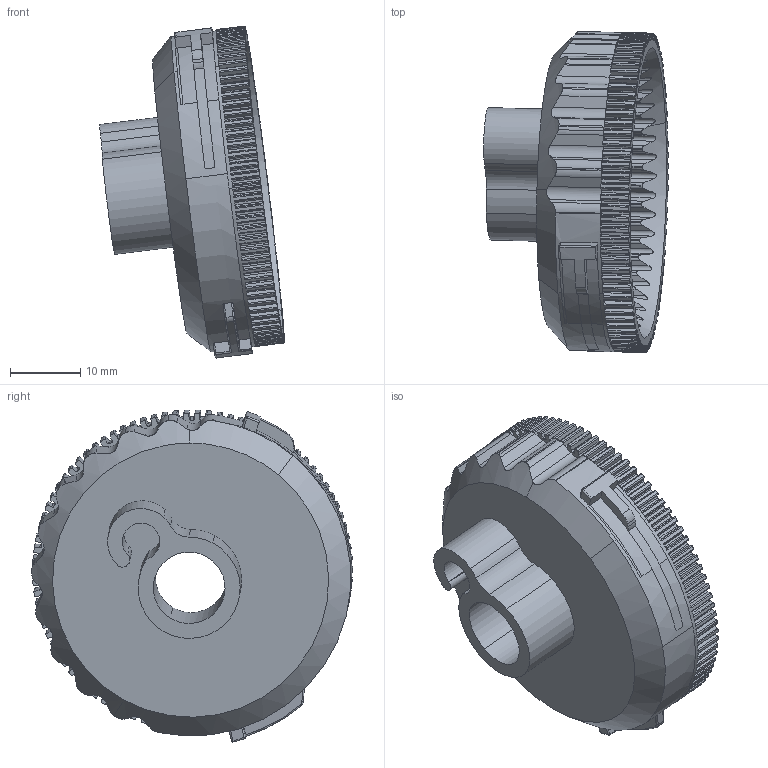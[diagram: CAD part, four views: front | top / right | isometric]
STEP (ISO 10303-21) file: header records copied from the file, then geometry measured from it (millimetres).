
FILE_DESCRIPTION(('CATIA V5 STEP Exchange'),'2;1');
FILE_NAME('G:\够快云库\系统集成开发部\1.部门成员\孙国\3D-stp打印件\20211216\SHT0010363-1216 卡轮.stp','2021-12-16T06:43:58+00:00',('none'),('none'),'CATIA Version 5 Release 20 GA (IN-10)','CATIA V5 STEP AP214','none');
FILE_SCHEMA(('AUTOMOTIVE_DESIGN { 1 0 10303 214 1 1 1 1 }'));
Length unit declared in the file: millimetre
Products named in the file (1): SHT0010363
Bounding box: 26.24 x 45.62 x 47.18 mm (x, y, z)
Volume: 9729.9 mm3; surface area: 7768.2 mm2
Topology: 1 solids, 1 shells, 1193 faces, 3633 edges, 2441 vertices
Faces by surface type: cylinder 760, plane 408, torus 6, extrusion 6, revolution 4, cone 4, sphere 3, bspline 2
Entity records: 44249 total; most frequent: CARTESIAN_POINT 10186, ORIENTED_EDGE 7260, DIRECTION 5243, EDGE_CURVE 3630, AXIS2_PLACEMENT_3D 2609, VERTEX_POINT 2441, VECTOR 1638, LINE 1632
